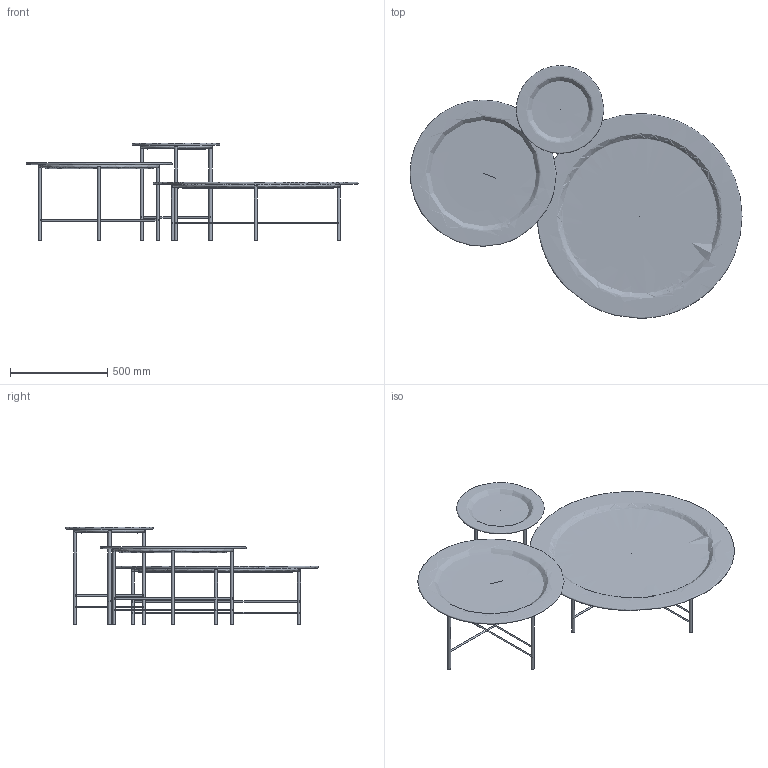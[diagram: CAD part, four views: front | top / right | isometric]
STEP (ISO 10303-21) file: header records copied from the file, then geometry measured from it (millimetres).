
FILE_DESCRIPTION(/* description */ (''),/* implementation_level */ '2;1');
FILE_NAME(/* name */ 'EN_TAV~1',/* time_stamp */ '2021-06-17T13:07:42+02:00',/* author */ (''),/* organization */ (''),/* preprocessor_version */ 'ST-DEVELOPER v16.5',/* originating_system */ '',/* authorisation */ '');
FILE_SCHEMA (('AUTOMOTIVE_DESIGN'));
Length unit declared in the file: millimetre
Products named in the file (1): Document
Bounding box: 1703.1 x 1295.99 x 500.06 mm (x, y, z)
Volume: 5835783.1 mm3; surface area: 3680347.4 mm2
Topology: 27 solids, 27 shells, 72 faces, 89 edges, 59 vertices
Faces by surface type: plane 42, bspline 30
Entity records: 3027 total; most frequent: CARTESIAN_POINT 2046, ORIENTED_EDGE 156, EDGE_CURVE 78, ADVANCED_FACE 72, FACE_OUTER_BOUND 72, EDGE_LOOP 72, VERTEX_POINT 54, DIRECTION 48
